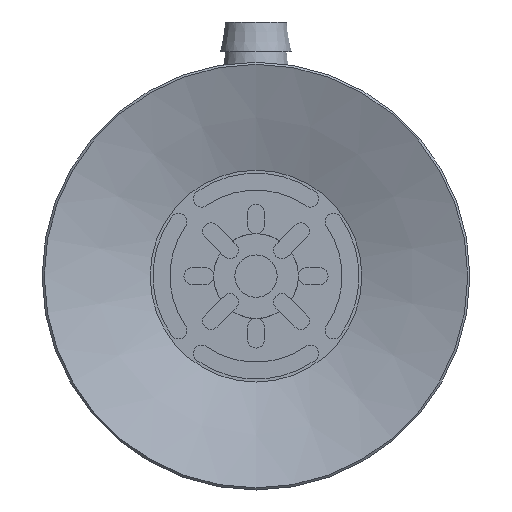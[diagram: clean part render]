
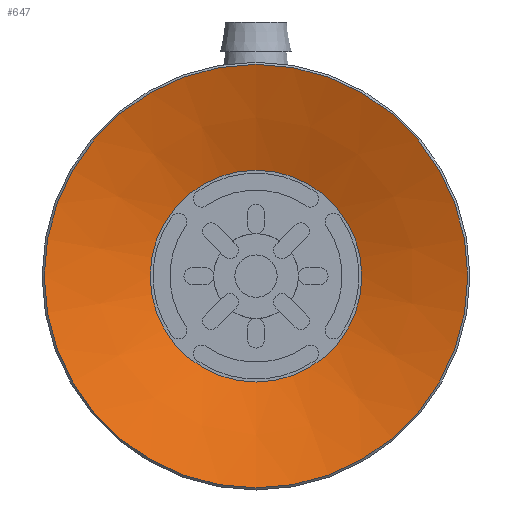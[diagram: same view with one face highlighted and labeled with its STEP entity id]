
A CAD part, front view. The second image highlights one B-rep face of the part: STEP entity #647.
In plain terms, the highlighted conical face has half-angle 70.201 degrees and reference radius 7.5 mm.
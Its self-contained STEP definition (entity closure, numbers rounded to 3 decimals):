
#647=ADVANCED_FACE('',(#1100,#1101),#1102,.F.);
#1100=FACE_BOUND('',#1554,.T.);
#1101=FACE_OUTER_BOUND('',#1555,.T.);
#1102=CONICAL_SURFACE('',#1556,7.5,1.225);
#1554=EDGE_LOOP('',(#2939));
#1555=EDGE_LOOP('',(#2940));
#1556=AXIS2_PLACEMENT_3D('',#2941,#2942,#2943);
#2939=ORIENTED_EDGE('',*,*,#3331,.F.);
#2940=ORIENTED_EDGE('',*,*,#3345,.T.);
#2941=CARTESIAN_POINT('',(0.0,0.0,2.7));
#2942=DIRECTION('',(0.0,0.,-1.0));
#2943=DIRECTION('',(0.0,1.0,0.));
#3331=EDGE_CURVE('',#4004,#4004,#4005,.T.);
#3345=EDGE_CURVE('',#4026,#4026,#4027,.T.);
#4004=VERTEX_POINT('',#5251);
#4005=CIRCLE('',#5252,7.5);
#4026=VERTEX_POINT('',#5278);
#4027=CIRCLE('',#5279,15.0);
#5251=CARTESIAN_POINT('',(0.0,7.5,2.7));
#5252=AXIS2_PLACEMENT_3D('',#5947,#5948,#5949);
#5278=CARTESIAN_POINT('',(0.0,15.0,0.));
#5279=AXIS2_PLACEMENT_3D('',#5979,#5980,#5981);
#5947=CARTESIAN_POINT('',(0.0,0.0,2.7));
#5948=DIRECTION('',(0.0,0.,-1.0));
#5949=DIRECTION('',(0.0,1.0,0.));
#5979=CARTESIAN_POINT('',(0.0,0.0,0.0));
#5980=DIRECTION('',(0.0,0.,-1.0));
#5981=DIRECTION('',(0.0,1.0,0.));
